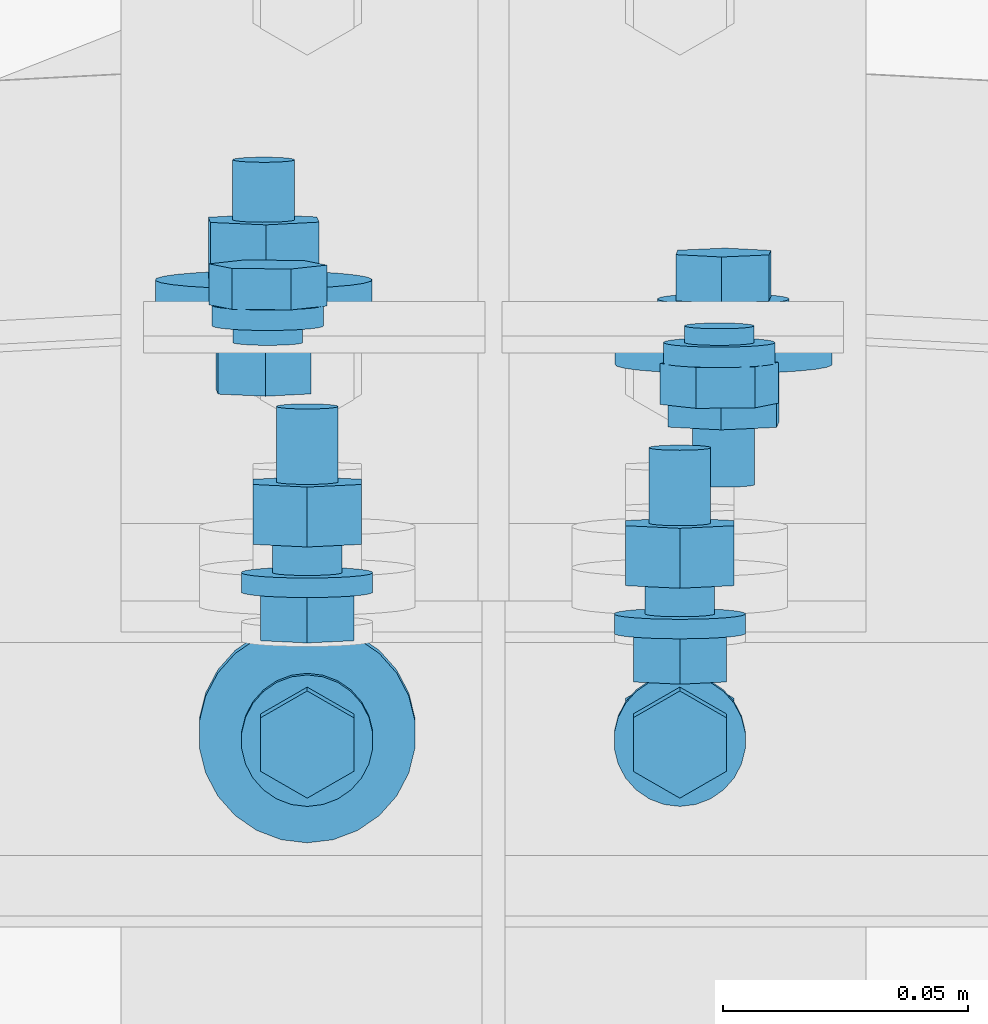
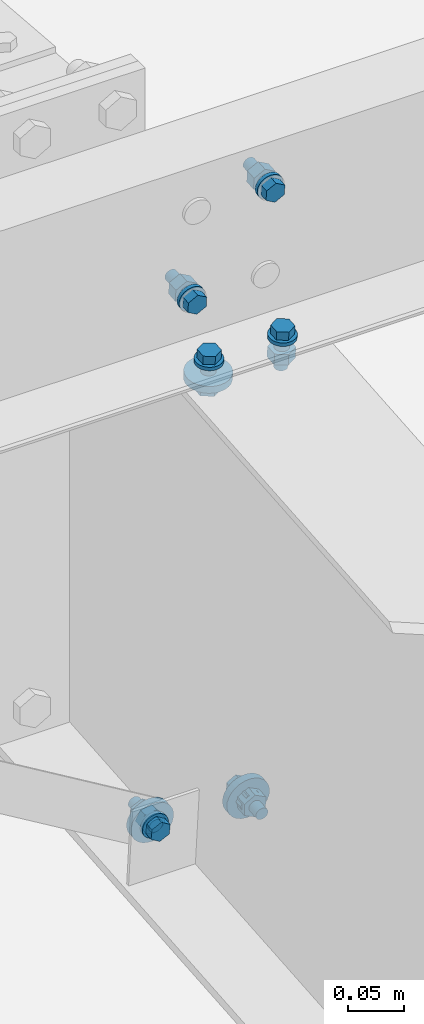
# One storey, part 171 of 185: 8 mechanical fasteners, 5 elements without a shape of their own.
"""IFC2X3 building model written with IfcOpenShell, lengths in millimetres."""

import ifcopenshell
import ifcopenshell.guid

model = None  # the IFC model being written
_history = None  # IfcOwnerHistory: only IFC2X3 demands one
_inside = {}  # id of a spatial element -> (the spatial element, [elements in it])
_under = {}  # id of a project, library or spatial element -> (it, [spatial elements below it])
_declared = {}  # id of a project -> (the project, [libraries it declares])
_typed = {}  # id of a type object -> (the type object, [elements of that type])
_made_of = {}  # id of a material, layer set ... -> (it, [elements and type objects made of it])


def new_model(schema):
    """Start an empty IFC model of exactly this schema.

    Asked for "IFC4X3", IfcOpenShell would pick the latest addendum, in which some entities
    have other attributes; the version numbers below select the first issue.
    IFC2X3 requires an IfcOwnerHistory on every rooted entity: one is made here for all.
    """
    global model, _history
    if schema == "IFC4X3":
        model = ifcopenshell.file(schema_version=(4, 3, 0, 0))
    else:
        model = ifcopenshell.file(schema=schema)
    _inside.clear()
    _under.clear()
    _declared.clear()
    _typed.clear()
    _made_of.clear()
    _history = None
    if model.schema == "IFC2X3":
        org = make("IfcOrganization", Name="unknown")
        user = make(
            "IfcPersonAndOrganization",
            ThePerson=make("IfcPerson", FamilyName="unknown"),
            TheOrganization=org,
        )
        app = make(
            "IfcApplication",
            ApplicationDeveloper=org,
            Version="unknown",
            ApplicationFullName="unknown",
            ApplicationIdentifier="unknown",
        )
        _history = make(
            "IfcOwnerHistory",
            OwningUser=user,
            OwningApplication=app,
            ChangeAction="ADDED",
            CreationDate=0,
        )
    return model


def make(cls, **values):
    """One entity of the class cls with the attributes given. An attribute that is None is left unset."""
    return model.create_entity(
        cls, **{name: value for name, value in values.items() if value is not None}
    )


def rooted(cls, **values):
    """An entity with a GlobalId (a new one), such as an element, a storey or a relation."""
    return make(cls, GlobalId=ifcopenshell.guid.new(), OwnerHistory=_history, **values)


def si_unit(unit_type, name, prefix=None):
    """IfcSIUnit, for example si_unit("LENGTHUNIT", "METRE", prefix="MILLI")."""
    return make("IfcSIUnit", UnitType=unit_type, Prefix=prefix, Name=name)


def assignment(units):
    """IfcUnitAssignment: the units of a project."""
    return None if units is None else make("IfcUnitAssignment", Units=units)


def point(xyz):
    """IfcCartesianPoint."""
    return None if xyz is None else make("IfcCartesianPoint", Coordinates=xyz)


def direction(xyz):
    """IfcDirection."""
    return None if xyz is None else make("IfcDirection", DirectionRatios=xyz)


def frame(location, z_axis=None, x_axis=None):
    """IfcAxis2Placement3D, a coordinate frame: its origin and axes. An axis left out is left unset."""
    return make(
        "IfcAxis2Placement3D",
        Location=point(location),
        Axis=direction(z_axis),
        RefDirection=direction(x_axis),
    )


def frame_2d(location, x_axis=None):
    """IfcAxis2Placement2D, a coordinate frame in the plane: its origin and x axis."""
    return make(
        "IfcAxis2Placement2D", Location=point(location), RefDirection=direction(x_axis)
    )


def origin_with_axes():
    """The frame at (0, 0, 0) with the z axis (0, 0, 1) and the x axis (1, 0, 0) written out."""
    return frame((0.0, 0.0, 0.0), z_axis=(0.0, 0.0, 1.0), x_axis=(1.0, 0.0, 0.0))


def origin_2d_with_axis():
    """The frame at (0, 0) in the plane with the x axis (1, 0) written out."""
    return frame_2d((0.0, 0.0), x_axis=(1.0, 0.0))


def place(relative_to, where):
    """IfcLocalPlacement: puts the frame where relative to a parent placement (None: the world)."""
    return make(
        "IfcLocalPlacement", PlacementRelTo=relative_to, RelativePlacement=where
    )


def context(
    kind, dimensions, precision=None, world=None, true_north=None, identifier=None
):
    """IfcGeometricRepresentationContext, for example the 3D "Model" context."""
    return make(
        "IfcGeometricRepresentationContext",
        ContextIdentifier=identifier,
        ContextType=kind,
        CoordinateSpaceDimension=dimensions,
        Precision=precision,
        WorldCoordinateSystem=world,
        TrueNorth=true_north,
    )


def subcontext(parent, identifier, kind, view, scale=None):
    """IfcGeometricRepresentationSubContext, for example "Body" below "Model"."""
    return make(
        "IfcGeometricRepresentationSubContext",
        ContextIdentifier=identifier,
        ContextType=kind,
        ParentContext=parent,
        TargetScale=scale,
        TargetView=view,
    )


def project(units=None, contexts=None):
    """IfcProject with its units and contexts."""
    return rooted(
        "IfcProject",
        Name="project",
        RepresentationContexts=contexts,
        UnitsInContext=assignment(units),
    )


def spatial(cls, under=None, at=None, **own):
    """A site, building, storey or space (cls), placed at a placement, below another one or the project."""
    s = rooted(cls, ObjectPlacement=at, **own)
    if under is not None:
        _under.setdefault(under.id(), (under, []))[1].append(s)
    return s


def polyline(points):
    """IfcPolyline through the points."""
    return make("IfcPolyline", Points=[point(p) for p in points])


def profile(cls, at=None, kind="AREA", **sizes):
    """A parametric profile (cls). Its sizes go by their IFC names, for example OverallWidth=200.0."""
    return make(cls, ProfileType=kind, Position=at, **sizes)


def circle(**sizes):
    """IfcCircleProfileDef."""
    return profile("IfcCircleProfileDef", **sizes)


def outline(outer, holes=None, kind="AREA"):
    """IfcArbitraryClosedProfileDef: a profile drawn as a closed curve; with holes, ...WithVoids."""
    if holes is None:
        return make("IfcArbitraryClosedProfileDef", ProfileType=kind, OuterCurve=outer)
    return make(
        "IfcArbitraryProfileDefWithVoids",
        ProfileType=kind,
        OuterCurve=outer,
        InnerCurves=holes,
    )


def extrude(swept, where, along, depth):
    """IfcExtrudedAreaSolid: the profile swept, set in the frame where, extruded along a direction by depth."""
    return make(
        "IfcExtrudedAreaSolid",
        SweptArea=swept,
        Position=where,
        ExtrudedDirection=direction(along),
        Depth=depth,
    )


def shape(context_of_items, identifier, shape_type, items):
    """IfcShapeRepresentation: the items that make up one representation, for example the "Body"."""
    return make(
        "IfcShapeRepresentation",
        ContextOfItems=context_of_items,
        RepresentationIdentifier=identifier,
        RepresentationType=shape_type,
        Items=items,
    )


def source(mapping_origin, context_of_items, identifier, shape_type, items):
    """IfcRepresentationMap: a shape defined once, which mapped items show again and again."""
    return make(
        "IfcRepresentationMap",
        MappingOrigin=mapping_origin,
        MappedRepresentation=shape(context_of_items, identifier, shape_type, items),
    )


def transform(
    local_origin,
    x_axis=None,
    y_axis=None,
    z_axis=None,
    scale=None,
    scale2=None,
    scale3=None,
    uniform=True,
):
    """IfcCartesianTransformationOperator3D, or its non-uniform kind. x_axis, y_axis, z_axis: its Axis1, 2, 3."""
    if uniform:
        return make(
            "IfcCartesianTransformationOperator3D",
            Axis1=direction(x_axis),
            Axis2=direction(y_axis),
            LocalOrigin=point(local_origin),
            Scale=scale,
            Axis3=direction(z_axis),
        )
    return make(
        "IfcCartesianTransformationOperator3DnonUniform",
        Axis1=direction(x_axis),
        Axis2=direction(y_axis),
        LocalOrigin=point(local_origin),
        Scale=scale,
        Axis3=direction(z_axis),
        Scale2=scale2,
        Scale3=scale3,
    )


def mapped(mapping_source, mapping_target):
    """IfcMappedItem: shows the shape of a source again, moved by a transform."""
    return make(
        "IfcMappedItem", MappingSource=mapping_source, MappingTarget=mapping_target
    )


def material(Name=None, Category=None):
    """IfcMaterial."""
    return make("IfcMaterial", Name=Name, Category=Category)


def made_of(thing, what):
    """Note that an element or type object is made of a material, layer set ...; save() writes the relation."""
    if what is not None:
        _made_of.setdefault(what.id(), (what, []))[1].append(thing)
    return thing


def type_object(cls, material=None, **own):
    """A type object (cls), such as IfcWallType, which elements share."""
    return made_of(rooted(cls, **own), material)


def element(
    cls,
    number,
    at=None,
    inside=None,
    cuts=None,
    type_object=None,
    material=None,
    context=None,
    identifier="Body",
    shape_type=None,
    held_by="IfcProductDefinitionShape",
    body=None,
    shapes=None,
    **own,
):
    """One element of the class cls, such as IfcWall. Its Tag is "e" and its number.

    at: its placement. inside: the storey or other place that contains it. cuts: it is an
    opening in that element (IfcRelVoidsElement). A single representation is given by context,
    identifier, shape_type and body (its items); several are given by shapes. held_by: the class
    of the entity that holds the representations. save() writes the other relations.
    """
    e = rooted(cls, Tag="e%d" % number, ObjectPlacement=at, **own)
    if body is not None:
        shapes = [shape(context, identifier, shape_type, body)]
    if shapes is not None:
        e.Representation = make(held_by, Representations=shapes)
    if inside is not None:
        _inside.setdefault(inside.id(), (inside, []))[1].append(e)
    if cuts is not None:
        rooted(
            "IfcRelVoidsElement", RelatingBuildingElement=cuts, RelatedOpeningElement=e
        )
    if type_object is not None:
        _typed.setdefault(type_object.id(), (type_object, []))[1].append(e)
    return made_of(e, material)


def aggregate(whole, parts):
    """IfcRelAggregates: a whole, such as a stair, and the parts it consists of."""
    return rooted("IfcRelAggregates", RelatingObject=whole, RelatedObjects=parts)


def save(model, path):
    """Write the relations noted so far, then the file.

    IfcRelAggregates (storeys below a building ...), IfcRelContainedInSpatialStructure (elements
    in a storey), IfcRelDefinesByType, IfcRelAssociatesMaterial and IfcRelDeclares: one each for
    every whole, place, type object, material and project.
    """
    for whole, parts in _under.values():
        aggregate(whole, parts)
    for where, things in _inside.values():
        rooted(
            "IfcRelContainedInSpatialStructure",
            RelatedElements=things,
            RelatingStructure=where,
        )
    for kind, things in _typed.values():
        rooted("IfcRelDefinesByType", RelatedObjects=things, RelatingType=kind)
    for what, things in _made_of.values():
        rooted("IfcRelAssociatesMaterial", RelatedObjects=things, RelatingMaterial=what)
    for by, libraries in _declared.values():
        rooted("IfcRelDeclares", RelatingContext=by, RelatedDefinitions=libraries)
    model.write(path)


model = new_model("IFC2X3")

# Units and contexts
model_context = context("Model", 3, precision=1e-05, world=origin_with_axes())
body_context = subcontext(model_context, "Body", "Model", "MODEL_VIEW")
ifc_project = project(units=[si_unit("LENGTHUNIT", "METRE", prefix="MILLI"), si_unit("AREAUNIT", "SQUARE_METRE"), si_unit("VOLUMEUNIT", "CUBIC_METRE"), si_unit("MASSUNIT", "GRAM", prefix="KILO"), si_unit("TIMEUNIT", "SECOND"), si_unit("PLANEANGLEUNIT", "RADIAN"), si_unit("SOLIDANGLEUNIT", "STERADIAN"), si_unit("THERMODYNAMICTEMPERATUREUNIT", "DEGREE_CELSIUS"), si_unit("LUMINOUSINTENSITYUNIT", "LUMEN")], contexts=[model_context])

# Site, building, storey
site_placement = place(None, origin_with_axes())
site = spatial("IfcSite", under=ifc_project, at=site_placement, Name="Undefined", CompositionType="ELEMENT")
building_placement = place(site_placement, origin_with_axes())
building = spatial("IfcBuilding", under=site, at=building_placement, Name="Undefined", CompositionType="ELEMENT")
storey_placement = place(building_placement, origin_with_axes())
storey = spatial("IfcBuildingStorey", under=building, at=storey_placement, Name="Undefined", CompositionType="ELEMENT", Elevation=0.0)

# Assembly, mechanical fastener
assembly_1_placement = place(storey_placement, origin_with_axes())
assembly_1 = element("IfcElementAssembly", 1, at=assembly_1_placement, inside=storey, Name="Steel Assembly", AssemblyPlace="NOTDEFINED", PredefinedType="RIGID_FRAME")
ifc_material_1 = material(Name="Undefined")
discrete_accessory_type = type_object("IfcDiscreteAccessoryType", Name="Bolt assembly")
shared_shape_1 = source(origin_with_axes(), body_context, "Body", "SweptSolid", [
    extrude(circle(Radius=7.14374971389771, at=origin_2d_with_axis()), frame((0.0, -1.59000001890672, 0.0), z_axis=(0.0, 1.0, 0.0), x_axis=(1.0, 0.0, 0.0)), (0.0, 0.0, 1.0), 1.7),
    extrude(outline(polyline([(10.9985221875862, 0.0), (5.4992610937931, 9.52499961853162), (-5.4992610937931, 9.52499961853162), (-10.9985221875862, 0.0), (-5.4992610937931, -9.52499961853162), (5.4992610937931, -9.52499961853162), (10.9985221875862, 0.0)])), frame((0.0, -15.0837496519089, 0.0), z_axis=(0.0, 1.0, 0.0), x_axis=(1.0, 0.0, 0.0)), (0.0, 0.0, 1.0), 9.5),
    extrude(circle(Radius=6.34999990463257, at=origin_2d_with_axis()), frame((0.0, -5.5587500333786, 0.0), z_axis=(0.0, 1.0, 0.0), x_axis=(1.0, 0.0, 0.0)), (0.0, 0.0, 1.0), 38.1),
    extrude(circle(Radius=13.4937496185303, at=origin_2d_with_axis()), frame((0.0, -5.5587500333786, 0.0), z_axis=(0.0, 1.0, 0.0), x_axis=(1.0, 0.0, 0.0)), (0.0, 0.0, 1.0), 4.0),
    extrude(circle(Radius=22.2250003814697, at=origin_2d_with_axis()), frame((0.0, 0.0, 0.0), z_axis=(0.0, 1.0, 0.0), x_axis=(1.0, 0.0, 0.0)), (0.0, 0.0, 1.0), 7.9),
    extrude(outline(polyline([(12.8316099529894, 0.0), (6.4158049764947, 11.1125001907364), (-6.4158049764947, 11.1125001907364), (-12.8316099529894, 0.0), (-6.4158049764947, -11.1125001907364), (6.4158049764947, -11.1125001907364), (12.8316099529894, 0.0)])), frame((0.0, 7.93750000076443, 0.0), z_axis=(0.0, 1.0, 0.0), x_axis=(1.0, 0.0, 0.0)), (0.0, 0.0, 1.0), 12.3),
])
mechanical_fastener_1_placement = place(assembly_1_placement, frame((37766.0060520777, 15761.3591259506, 6646.91759132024), z_axis=(0.530152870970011, 0.0704144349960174, -0.844973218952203), x_axis=(0.847902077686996, -0.044026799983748, 0.528321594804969)))
mechanical_fastener_1 = element("IfcMechanicalFastener", 2, at=mechanical_fastener_1_placement, type_object=discrete_accessory_type, material=ifc_material_1, Name="Bolt assembly", NominalDiameter=12.6999998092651, NominalLength=38.0999984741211, context=body_context, shape_type="MappedRepresentation", body=[
    mapped(shared_shape_1, transform((0.0, 0.0, 0.0))),
])
aggregate(assembly_1, [mechanical_fastener_1])

assembly_2_placement = place(storey_placement, origin_with_axes())
assembly_2 = element("IfcElementAssembly", 3, at=assembly_2_placement, inside=storey, Name="Steel Assembly", AssemblyPlace="NOTDEFINED", PredefinedType="RIGID_FRAME")
shared_shape_2 = source(origin_with_axes(), body_context, "Body", "SweptSolid", [
    extrude(circle(Radius=7.14374971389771, at=origin_2d_with_axis()), frame((0.0, 0.0, 0.0), z_axis=(0.0, 1.0, 0.0), x_axis=(1.0, 0.0, 0.0)), (0.0, 0.0, 1.0), 1.7),
    extrude(outline(polyline([(10.9985221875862, 0.0), (5.4992610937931, 9.52499961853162), (-5.4992610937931, 9.52499961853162), (-10.9985221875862, 0.0), (-5.4992610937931, -9.52499961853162), (5.4992610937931, -9.52499961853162), (10.9985221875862, 0.0)])), frame((0.0, -13.4937496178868, 0.0), z_axis=(0.0, 1.0, 0.0), x_axis=(1.0, 0.0, 0.0)), (0.0, 0.0, 1.0), 9.5),
    extrude(circle(Radius=6.34999990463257, at=origin_2d_with_axis()), frame((0.0, -3.96874999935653, 0.0), z_axis=(0.0, 1.0, 0.0), x_axis=(1.0, 0.0, 0.0)), (0.0, 0.0, 1.0), 38.1),
    extrude(circle(Radius=13.4937496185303, at=origin_2d_with_axis()), frame((0.0, -3.96874999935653, 0.0), z_axis=(0.0, 1.0, 0.0), x_axis=(1.0, 0.0, 0.0)), (0.0, 0.0, 1.0), 4.0),
    extrude(circle(Radius=22.2250003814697, at=origin_2d_with_axis()), frame((0.0, 1.5900000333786, 0.0), z_axis=(0.0, 1.0, 0.0), x_axis=(1.0, 0.0, 0.0)), (0.0, 0.0, 1.0), 7.9),
    extrude(outline(polyline([(12.8316099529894, 0.0), (6.4158049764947, 11.1125001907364), (-6.4158049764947, 11.1125001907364), (-12.8316099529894, 0.0), (-6.4158049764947, -11.1125001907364), (6.4158049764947, -11.1125001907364), (12.8316099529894, 0.0)])), frame((0.0, 9.5275000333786, 0.0), z_axis=(0.0, 1.0, 0.0), x_axis=(1.0, 0.0, 0.0)), (0.0, 0.0, 1.0), 12.3),
])
mechanical_fastener_2_placement = place(assembly_2_placement, frame((37671.9939479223, 15761.3591259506, 6646.91759131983), z_axis=(-0.530152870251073, 0.070414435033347, -0.844973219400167), x_axis=(-0.847902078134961, -0.0440268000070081, 0.528321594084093)))
mechanical_fastener_2 = element("IfcMechanicalFastener", 4, at=mechanical_fastener_2_placement, type_object=discrete_accessory_type, material=ifc_material_1, Name="Bolt assembly", NominalDiameter=12.6999998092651, NominalLength=38.0999984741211, context=body_context, shape_type="MappedRepresentation", body=[
    mapped(shared_shape_2, transform((0.0, 0.0, 0.0))),
])
aggregate(assembly_2, [mechanical_fastener_2])

# Assembly, mechanical fasteners
assembly_3_placement = place(storey_placement, origin_with_axes())
assembly_3 = element("IfcElementAssembly", 5, at=assembly_3_placement, inside=storey, Name="Steel Assembly", AssemblyPlace="NOTDEFINED", PredefinedType="RIGID_FRAME")
ifc_material_2 = material(Name="7990")
shared_shape_3 = source(origin_with_axes(), body_context, "Body", "SweptSolid", [
    extrude(circle(Radius=7.14374971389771, at=origin_2d_with_axis()), frame((0.0, -3.41600000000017, 0.0), z_axis=(0.0, 1.0, 0.0), x_axis=(1.0, 0.0, 0.0)), (0.0, 0.0, 1.0), 3.5),
    extrude(circle(Radius=11.4299998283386, at=origin_2d_with_axis()), frame((0.0, 0.0, 0.0), z_axis=(0.0, 1.0, 0.0), x_axis=(1.0, 0.0, 0.0)), (0.0, 0.0, 1.0), 4.2),
    extrude(outline(polyline([(12.171698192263, 0.0), (6.08584909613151, 10.5409998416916), (-6.08584909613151, 10.5409998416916), (-12.171698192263, 0.0), (-6.08584909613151, -10.5409998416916), (6.08584909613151, -10.5409998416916), (12.171698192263, 0.0)])), frame((0.0, 4.1909999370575, 0.0), z_axis=(0.0, 1.0, 0.0), x_axis=(1.0, 0.0, 0.0)), (0.0, 0.0, 1.0), 8.4),
])
mechanical_fastener_3_placement = place(assembly_3_placement, frame((37672.84185, 15761.4031527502, 6646.38926972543), z_axis=(0.921635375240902, 0.0322263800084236, -0.386716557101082), x_axis=(-0.388056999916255, 0.0765376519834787, -0.9184518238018)))
mechanical_fastener_3 = element("IfcMechanicalFastener", 6, at=mechanical_fastener_3_placement, type_object=discrete_accessory_type, material=ifc_material_2, Name="Bolt assembly", NominalDiameter=12.6999998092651, NominalLength=38.0999984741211, context=body_context, shape_type="MappedRepresentation", body=[
    mapped(shared_shape_3, transform((0.0, 0.0, 0.0))),
])
shared_shape_4 = source(origin_with_axes(), body_context, "Body", "SweptSolid", [
    extrude(circle(Radius=7.14374971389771, at=origin_2d_with_axis()), frame((0.0, 0.0, 0.0), z_axis=(0.0, 1.0, 0.0), x_axis=(1.0, 0.0, 0.0)), (0.0, 0.0, 1.0), 3.5),
    extrude(circle(Radius=11.4299998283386, at=origin_2d_with_axis()), frame((0.0, 3.41600000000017, 0.0), z_axis=(0.0, 1.0, 0.0), x_axis=(1.0, 0.0, 0.0)), (0.0, 0.0, 1.0), 4.2),
    extrude(outline(polyline([(12.171698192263, 0.0), (6.08584909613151, 10.5409998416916), (-6.08584909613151, 10.5409998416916), (-12.171698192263, 0.0), (-6.08584909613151, -10.5409998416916), (6.08584909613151, -10.5409998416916), (12.171698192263, 0.0)])), frame((0.0, 7.60699993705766, 0.0), z_axis=(0.0, 1.0, 0.0), x_axis=(1.0, 0.0, 0.0)), (0.0, 0.0, 1.0), 8.4),
])
mechanical_fastener_4_placement = place(assembly_3_placement, frame((37765.15815, 15761.4031527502, 6646.38926972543), z_axis=(-0.921635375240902, 0.0322263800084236, -0.386716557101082), x_axis=(0.388056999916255, 0.0765376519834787, -0.9184518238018)))
mechanical_fastener_4 = element("IfcMechanicalFastener", 7, at=mechanical_fastener_4_placement, type_object=discrete_accessory_type, material=ifc_material_2, Name="Bolt assembly", NominalDiameter=12.6999998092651, NominalLength=38.0999984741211, context=body_context, shape_type="MappedRepresentation", body=[
    mapped(shared_shape_4, transform((0.0, 0.0, 0.0))),
])
aggregate(assembly_3, [mechanical_fastener_4, mechanical_fastener_3])

assembly_4_placement = place(storey_placement, origin_with_axes())
assembly_4 = element("IfcElementAssembly", 8, at=assembly_4_placement, inside=storey, Name="Steel Assembly", AssemblyPlace="NOTDEFINED", PredefinedType="RIGID_FRAME")
shared_shape_5 = source(origin_with_axes(), body_context, "Body", "SweptSolid", [
    extrude(circle(Radius=7.14374971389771, at=origin_2d_with_axis()), frame((0.0, 0.0, 0.0), z_axis=(0.0, 1.0, 0.0), x_axis=(1.0, 0.0, 0.0)), (0.0, 0.0, 1.0), 6.5),
    extrude(outline(polyline([(10.9985221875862, 0.0), (5.4992610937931, 9.52499961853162), (-5.4992610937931, 9.52499961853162), (-10.9985221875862, 0.0), (-5.4992610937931, -9.52499961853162), (5.4992610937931, -9.52499961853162), (10.9985221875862, 0.0)])), frame((0.0, -13.4937496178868, 0.0), z_axis=(0.0, 1.0, 0.0), x_axis=(1.0, 0.0, 0.0)), (0.0, 0.0, 1.0), 9.5),
    extrude(circle(Radius=6.34999990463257, at=origin_2d_with_axis()), frame((0.0, -3.96874999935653, 0.0), z_axis=(0.0, 1.0, 0.0), x_axis=(1.0, 0.0, 0.0)), (0.0, 0.0, 1.0), 38.1),
    extrude(circle(Radius=13.4937496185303, at=origin_2d_with_axis()), frame((0.0, -3.96874999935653, 0.0), z_axis=(0.0, 1.0, 0.0), x_axis=(1.0, 0.0, 0.0)), (0.0, 0.0, 1.0), 4.0),
    extrude(outline(polyline([(12.8316099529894, 0.0), (6.4158049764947, 11.1125001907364), (-6.4158049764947, 11.1125001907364), (-12.8316099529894, 0.0), (-6.4158049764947, -11.1125001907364), (6.4158049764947, -11.1125001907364), (12.8316099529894, 0.0)])), frame((0.0, 6.35000000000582, 0.0), z_axis=(0.0, 1.0, 0.0), x_axis=(1.0, 0.0, 0.0)), (0.0, 0.0, 1.0), 12.3),
])
mechanical_fastener_5_placement = place(assembly_4_placement, frame((37757.1, 15702.4719876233, 7353.56325125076), z_axis=(1.0, 0.0, 0.0), x_axis=(0.0, 0.0830454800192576, -0.996545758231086)))
mechanical_fastener_5 = element("IfcMechanicalFastener", 9, at=mechanical_fastener_5_placement, type_object=discrete_accessory_type, material=ifc_material_1, Name="Bolt assembly", NominalDiameter=12.6999998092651, NominalLength=38.0999984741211, context=body_context, shape_type="MappedRepresentation", body=[
    mapped(shared_shape_5, transform((0.0, 0.0, 0.0))),
])
shared_shape_6 = source(origin_with_axes(), body_context, "Body", "SweptSolid", [
    extrude(circle(Radius=7.14374971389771, at=origin_2d_with_axis()), frame((0.0, 0.0, 0.0), z_axis=(0.0, 1.0, 0.0), x_axis=(1.0, 0.0, 0.0)), (0.0, 0.0, 1.0), 6.4),
    extrude(outline(polyline([(10.9985221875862, 0.0), (5.4992610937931, 9.52499961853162), (-5.4992610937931, 9.52499961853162), (-10.9985221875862, 0.0), (-5.4992610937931, -9.52499961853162), (5.4992610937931, -9.52499961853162), (10.9985221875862, 0.0)])), frame((0.0, -13.4937496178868, 0.0), z_axis=(0.0, 1.0, 0.0), x_axis=(1.0, 0.0, 0.0)), (0.0, 0.0, 1.0), 9.5),
    extrude(circle(Radius=6.34999990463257, at=origin_2d_with_axis()), frame((0.0, -3.96874999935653, 0.0), z_axis=(0.0, 1.0, 0.0), x_axis=(1.0, 0.0, 0.0)), (0.0, 0.0, 1.0), 38.1),
    extrude(circle(Radius=13.4937496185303, at=origin_2d_with_axis()), frame((0.0, -3.96874999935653, 0.0), z_axis=(0.0, 1.0, 0.0), x_axis=(1.0, 0.0, 0.0)), (0.0, 0.0, 1.0), 4.0),
    extrude(outline(polyline([(12.8316099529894, 0.0), (6.4158049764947, 11.1125001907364), (-6.4158049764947, 11.1125001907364), (-12.8316099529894, 0.0), (-6.4158049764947, -11.1125001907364), (6.4158049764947, -11.1125001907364), (12.8316099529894, 0.0)])), frame((0.0, 6.35000000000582, 0.0), z_axis=(0.0, 1.0, 0.0), x_axis=(1.0, 0.0, 0.0)), (0.0, 0.0, 1.0), 12.3),
])
mechanical_fastener_6_placement = place(assembly_4_placement, frame((37680.9, 15710.9094083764, 7252.31420221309), z_axis=(1.0, 0.0, 0.0), x_axis=(0.0, 0.0830454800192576, -0.996545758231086)))
mechanical_fastener_6 = element("IfcMechanicalFastener", 10, at=mechanical_fastener_6_placement, type_object=discrete_accessory_type, material=ifc_material_1, Name="Bolt assembly", NominalDiameter=12.6999998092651, NominalLength=38.0999984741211, context=body_context, shape_type="MappedRepresentation", body=[
    mapped(shared_shape_6, transform((0.0, 0.0, 0.0))),
])
aggregate(assembly_4, [mechanical_fastener_6, mechanical_fastener_5])

assembly_5_placement = place(storey_placement, origin_with_axes())
assembly_5 = element("IfcElementAssembly", 11, at=assembly_5_placement, inside=storey, Name="Steel Assembly", AssemblyPlace="NOTDEFINED", PredefinedType="RIGID_FRAME")
shared_shape_7 = source(origin_with_axes(), body_context, "Body", "SweptSolid", [
    extrude(circle(Radius=7.14374971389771, at=origin_2d_with_axis()), frame((0.0, -0.0238014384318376, 0.0), z_axis=(0.0, 1.0, 0.0), x_axis=(1.0, 0.0, 0.0)), (0.0, 0.0, 1.0), 8.0),
    extrude(circle(Radius=7.14374971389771, at=origin_2d_with_axis()), frame((0.0, -3.08000006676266, 0.0), z_axis=(0.0, 1.0, 0.0), x_axis=(1.0, 0.0, 0.0)), (0.0, 0.0, 1.0), 3.2),
    extrude(circle(Radius=7.14374971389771, at=origin_2d_with_axis()), frame((0.0, -3.18000030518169, 0.0), z_axis=(0.0, 1.0, 0.0), x_axis=(1.0, 0.0, 0.0)), (0.0, 0.0, 1.0), 3.2),
    extrude(outline(polyline([(10.9985221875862, 0.0), (5.4992610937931, 9.52499961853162), (-5.4992610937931, 9.52499961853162), (-10.9985221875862, 0.0), (-5.4992610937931, -9.52499961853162), (5.4992610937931, -9.52499961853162), (10.9985221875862, 0.0)])), frame((0.0, -16.6737496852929, 0.0), z_axis=(0.0, 1.0, 0.0), x_axis=(1.0, 0.0, 0.0)), (0.0, 0.0, 1.0), 9.5),
    extrude(circle(Radius=6.34999990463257, at=origin_2d_with_axis()), frame((0.0, -7.14875006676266, 0.0), z_axis=(0.0, 1.0, 0.0), x_axis=(1.0, 0.0, 0.0)), (0.0, 0.0, 1.0), 38.1),
    extrude(circle(Radius=13.4937496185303, at=origin_2d_with_axis()), frame((0.0, -7.14875006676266, 0.0), z_axis=(0.0, 1.0, 0.0), x_axis=(1.0, 0.0, 0.0)), (0.0, 0.0, 1.0), 4.0),
    extrude(circle(Radius=22.2250003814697, at=origin_2d_with_axis()), frame((0.0, 7.95019856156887, 0.0), z_axis=(0.0, 1.0, 0.0), x_axis=(1.0, 0.0, 0.0)), (0.0, 0.0, 1.0), 7.9),
    extrude(outline(polyline([(12.8316099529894, 0.0), (6.4158049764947, 11.1125001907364), (-6.4158049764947, 11.1125001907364), (-12.8316099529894, 0.0), (-6.4158049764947, -11.1125001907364), (6.4158049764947, -11.1125001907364), (12.8316099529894, 0.0)])), frame((0.0, 15.8876985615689, 0.0), z_axis=(0.0, 1.0, 0.0), x_axis=(1.0, 0.0, 0.0)), (0.0, 0.0, 1.0), 12.3),
])
mechanical_fastener_7_placement = place(assembly_5_placement, frame((37680.9, 15677.1597253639, 7198.52564491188), z_axis=(1.0, 0.0, 0.0), x_axis=(0.0, -0.996545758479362, -0.0830454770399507)))
mechanical_fastener_7 = element("IfcMechanicalFastener", 12, at=mechanical_fastener_7_placement, type_object=discrete_accessory_type, material=ifc_material_1, Name="Bolt assembly", NominalDiameter=12.6999998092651, NominalLength=38.0999984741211, context=body_context, shape_type="MappedRepresentation", body=[
    mapped(shared_shape_7, transform((0.0, 0.0, 0.0))),
])
shared_shape_8 = source(origin_with_axes(), body_context, "Body", "SweptSolid", [
    extrude(circle(Radius=7.14374971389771, at=origin_2d_with_axis()), frame((0.0, -0.0238014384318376, 0.0), z_axis=(0.0, 1.0, 0.0), x_axis=(1.0, 0.0, 0.0)), (0.0, 0.0, 1.0), 8.0),
    extrude(circle(Radius=7.14374971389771, at=origin_2d_with_axis()), frame((0.0, -3.08000006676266, 0.0), z_axis=(0.0, 1.0, 0.0), x_axis=(1.0, 0.0, 0.0)), (0.0, 0.0, 1.0), 3.2),
    extrude(circle(Radius=7.14374971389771, at=origin_2d_with_axis()), frame((0.0, -3.18000030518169, 0.0), z_axis=(0.0, 1.0, 0.0), x_axis=(1.0, 0.0, 0.0)), (0.0, 0.0, 1.0), 3.2),
    extrude(outline(polyline([(10.9985221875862, 0.0), (5.4992610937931, 9.52499961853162), (-5.4992610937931, 9.52499961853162), (-10.9985221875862, 0.0), (-5.4992610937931, -9.52499961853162), (5.4992610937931, -9.52499961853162), (10.9985221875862, 0.0)])), frame((0.0, -16.6737496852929, 0.0), z_axis=(0.0, 1.0, 0.0), x_axis=(1.0, 0.0, 0.0)), (0.0, 0.0, 1.0), 9.5),
    extrude(circle(Radius=6.34999990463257, at=origin_2d_with_axis()), frame((0.0, -7.14875006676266, 0.0), z_axis=(0.0, 1.0, 0.0), x_axis=(1.0, 0.0, 0.0)), (0.0, 0.0, 1.0), 38.1),
    extrude(circle(Radius=13.4937496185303, at=origin_2d_with_axis()), frame((0.0, -7.14875006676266, 0.0), z_axis=(0.0, 1.0, 0.0), x_axis=(1.0, 0.0, 0.0)), (0.0, 0.0, 1.0), 4.0),
    extrude(outline(polyline([(12.8316099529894, 0.0), (6.4158049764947, 11.1125001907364), (-6.4158049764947, 11.1125001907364), (-12.8316099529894, 0.0), (-6.4158049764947, -11.1125001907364), (6.4158049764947, -11.1125001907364), (12.8316099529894, 0.0)])), frame((0.0, 7.95019856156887, 0.0), z_axis=(0.0, 1.0, 0.0), x_axis=(1.0, 0.0, 0.0)), (0.0, 0.0, 1.0), 12.3),
])
mechanical_fastener_8_placement = place(assembly_5_placement, frame((37757.1, 15677.1597253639, 7198.52564491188), z_axis=(1.0, 0.0, 0.0), x_axis=(0.0, -0.996545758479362, -0.0830454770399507)))
mechanical_fastener_8 = element("IfcMechanicalFastener", 13, at=mechanical_fastener_8_placement, type_object=discrete_accessory_type, material=ifc_material_1, Name="Bolt assembly", NominalDiameter=12.6999998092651, NominalLength=38.0999984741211, context=body_context, shape_type="MappedRepresentation", body=[
    mapped(shared_shape_8, transform((0.0, 0.0, 0.0))),
])
aggregate(assembly_5, [mechanical_fastener_7, mechanical_fastener_8])

save(model, "model.ifc")
